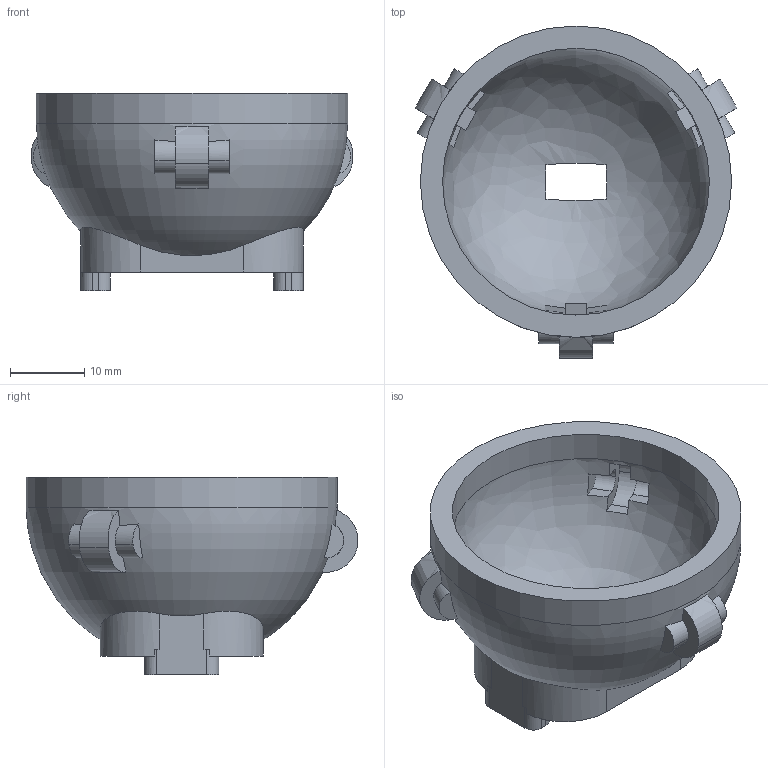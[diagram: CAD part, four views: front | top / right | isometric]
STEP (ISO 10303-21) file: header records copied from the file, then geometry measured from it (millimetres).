
FILE_DESCRIPTION(('Open CASCADE Model'),'2;1');
FILE_NAME('Open CASCADE Shape Model','2026-05-31T19:43:32',('Author'),( 'Open CASCADE'),'Open CASCADE STEP processor 7.6','Open CASCADE 7.6' ,'Unknown');
FILE_SCHEMA(('AP242_MANAGED_MODEL_BASED_3D_ENGINEERING_MIM_LF. {1 0 10303 442 1 1 4 }'));
Length unit declared in the file: millimetre
Products named in the file (1): Open CASCADE STEP translator 7.6 12
Bounding box: 43.43 x 44.78 x 26.6 mm (x, y, z)
Volume: 9345.6 mm3; surface area: 7336 mm2
Topology: 1 solids, 1 shells, 140 faces, 392 edges, 260 vertices
Faces by surface type: plane 74, extrusion 36, cylinder 22, bspline 4, revolution 2, cone 2
Full cylindrical faces by diameter (mm): 2.05 x2, 36 x1, 42 x1
Entity records: 19558 total; most frequent: CARTESIAN_POINT 12137, DIRECTION 1248, ORIENTED_EDGE 780, PCURVE 780, DEFINITIONAL_REPRESENTATION 780, VECTOR 658, LINE 622, EDGE_CURVE 390
